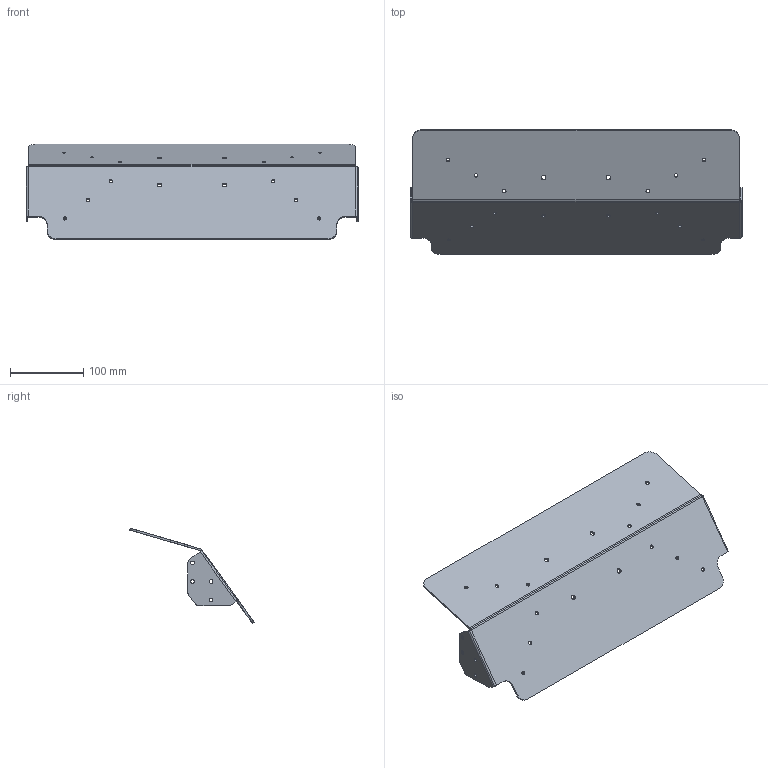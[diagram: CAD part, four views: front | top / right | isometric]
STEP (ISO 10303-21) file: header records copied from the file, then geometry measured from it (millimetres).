
FILE_DESCRIPTION (( 'STEP AP214' ), '1' );
FILE_NAME ('KB-26003_ Intake Baseplate_1.step', '2025-12-23T15:52:23', ( '' ), ( '' ), 'SwSTEP 2.0', 'SolidWorks 2026', '' );
FILE_SCHEMA (( 'AUTOMOTIVE_DESIGN' ));
Length unit declared in the file: inch
Products named in the file (1): KB-26003_ Intake Baseplate_1
Bounding box: 454.79 x 170.82 x 130.94 mm (x, y, z)
Volume: 265985.6 mm3; surface area: 214113.8 mm2
Topology: 1 solids, 1 shells, 106 faces, 288 edges, 184 vertices
Faces by surface type: cylinder 74, plane 32
Entity records: 3511 total; most frequent: DIRECTION 650, CARTESIAN_POINT 579, ORIENTED_EDGE 576, EDGE_CURVE 288, AXIS2_PLACEMENT_3D 255, VERTEX_POINT 184, EDGE_LOOP 154, CIRCLE 148
